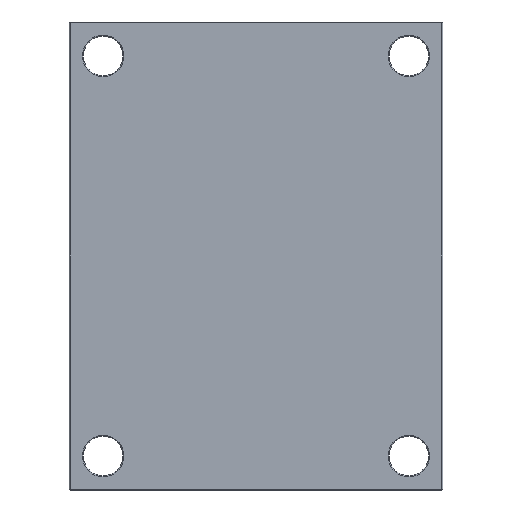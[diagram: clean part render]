
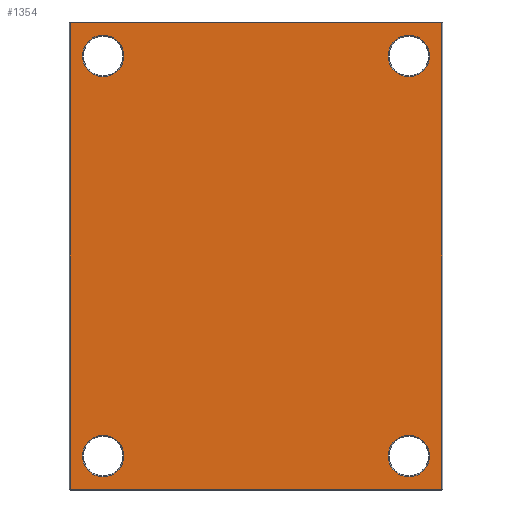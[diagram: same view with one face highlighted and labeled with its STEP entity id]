
A CAD part, front view. The second image highlights one B-rep face of the part: STEP entity #1354.
In plain terms, the highlighted planar face has unit normal (0, -1, 0).
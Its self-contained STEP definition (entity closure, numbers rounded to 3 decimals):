
#5 = DIRECTION ( 'NONE',  ( 0., 1., 0. ) ) ;
#11 = DIRECTION ( 'NONE',  ( 0., 0., 1. ) ) ;
#69 = CARTESIAN_POINT ( 'NONE',  ( -162., 0., 212. ) ) ;
#106 = CARTESIAN_POINT ( 'NONE',  ( 0., 0., 0. ) ) ;
#113 = CIRCLE ( 'NONE', #337, 22. ) ;
#130 = AXIS2_PLACEMENT_3D ( 'NONE', #69, #1855, #1732 ) ;
#134 = DIRECTION ( 'NONE',  ( 0., 0., 1. ) ) ;
#159 = DIRECTION ( 'NONE',  ( -1., 0., 0. ) ) ;
#161 = EDGE_CURVE ( 'NONE', #530, #607, #113, .T. ) ;
#175 = CARTESIAN_POINT ( 'NONE',  ( -162., 0., -212. ) ) ;
#181 = DIRECTION ( 'NONE',  ( 0., 1., 0. ) ) ;
#211 = VERTEX_POINT ( 'NONE', #1752 ) ;
#218 = DIRECTION ( 'NONE',  ( 0., 0., 1. ) ) ;
#224 = AXIS2_PLACEMENT_3D ( 'NONE', #1913, #1084, #1761 ) ;
#240 = CARTESIAN_POINT ( 'NONE',  ( -162., 0., 234. ) ) ;
#246 = CARTESIAN_POINT ( 'NONE',  ( -197., 0., 0. ) ) ;
#277 = VERTEX_POINT ( 'NONE', #1814 ) ;
#304 = AXIS2_PLACEMENT_3D ( 'NONE', #1525, #1196, #134 ) ;
#337 = AXIS2_PLACEMENT_3D ( 'NONE', #1722, #1724, #1736 ) ;
#382 = AXIS2_PLACEMENT_3D ( 'NONE', #175, #181, #218 ) ;
#398 = CIRCLE ( 'NONE', #1773, 22. ) ;
#407 = VERTEX_POINT ( 'NONE', #855 ) ;
#427 = VERTEX_POINT ( 'NONE', #625 ) ;
#476 = DIRECTION ( 'NONE',  ( 0., 0., 1. ) ) ;
#483 = VERTEX_POINT ( 'NONE', #696 ) ;
#505 = DIRECTION ( 'NONE',  ( 0., 1., 0. ) ) ;
#515 = CARTESIAN_POINT ( 'NONE',  ( 0., 0., 247. ) ) ;
#530 = VERTEX_POINT ( 'NONE', #1303 ) ;
#535 = EDGE_LOOP ( 'NONE', ( #806, #840 ) ) ;
#537 = EDGE_LOOP ( 'NONE', ( #895, #925, #923, #927 ) ) ;
#607 = VERTEX_POINT ( 'NONE', #240 ) ;
#618 = VERTEX_POINT ( 'NONE', #1482 ) ;
#625 = CARTESIAN_POINT ( 'NONE',  ( -197., 0., 247. ) ) ;
#670 = PLANE ( 'NONE',  #1022 ) ;
#696 = CARTESIAN_POINT ( 'NONE',  ( 162., 0., 190. ) ) ;
#752 = EDGE_LOOP ( 'NONE', ( #888, #880 ) ) ;
#782 = VECTOR ( 'NONE', #993, 1000. ) ;
#806 = ORIENTED_EDGE ( 'NONE', *, *, #2105, .T. ) ;
#811 = CARTESIAN_POINT ( 'NONE',  ( -162., 0., -234. ) ) ;
#818 = CIRCLE ( 'NONE', #1970, 22. ) ;
#830 = LINE ( 'NONE', #2023, #782 ) ;
#840 = ORIENTED_EDGE ( 'NONE', *, *, #1841, .T. ) ;
#855 = CARTESIAN_POINT ( 'NONE',  ( 162., 0., -234. ) ) ;
#866 = ORIENTED_EDGE ( 'NONE', *, *, #1707, .T. ) ;
#880 = ORIENTED_EDGE ( 'NONE', *, *, #1831, .T. ) ;
#888 = ORIENTED_EDGE ( 'NONE', *, *, #1192, .T. ) ;
#891 = ORIENTED_EDGE ( 'NONE', *, *, #1225, .T. ) ;
#894 = ORIENTED_EDGE ( 'NONE', *, *, #161, .T. ) ;
#895 = ORIENTED_EDGE ( 'NONE', *, *, #1621, .T. ) ;
#911 = VERTEX_POINT ( 'NONE', #811 ) ;
#914 = ORIENTED_EDGE ( 'NONE', *, *, #1635, .T. ) ;
#923 = ORIENTED_EDGE ( 'NONE', *, *, #1524, .T. ) ;
#925 = ORIENTED_EDGE ( 'NONE', *, *, #1582, .T. ) ;
#927 = ORIENTED_EDGE ( 'NONE', *, *, #1459, .T. ) ;
#933 = CIRCLE ( 'NONE', #382, 22. ) ;
#939 = DIRECTION ( 'NONE',  ( 0., 1., 0. ) ) ;
#946 = CARTESIAN_POINT ( 'NONE',  ( 162., 0., 212. ) ) ;
#960 = CIRCLE ( 'NONE', #304, 22. ) ;
#977 = EDGE_LOOP ( 'NONE', ( #891, #866 ) ) ;
#993 = DIRECTION ( 'NONE',  ( 1., 0., 0. ) ) ;
#1022 = AXIS2_PLACEMENT_3D ( 'NONE', #106, #505, #476 ) ;
#1025 = CARTESIAN_POINT ( 'NONE',  ( 197., 0., -247. ) ) ;
#1064 = VERTEX_POINT ( 'NONE', #1286 ) ;
#1084 = DIRECTION ( 'NONE',  ( 0., 1., 0. ) ) ;
#1124 = CARTESIAN_POINT ( 'NONE',  ( -162., 0., -212. ) ) ;
#1192 = EDGE_CURVE ( 'NONE', #407, #1429, #818, .T. ) ;
#1196 = DIRECTION ( 'NONE',  ( 0., 1., 0. ) ) ;
#1225 = EDGE_CURVE ( 'NONE', #483, #277, #398, .T. ) ;
#1286 = CARTESIAN_POINT ( 'NONE',  ( -162., 0., -190. ) ) ;
#1303 = CARTESIAN_POINT ( 'NONE',  ( -162., 0., 190. ) ) ;
#1313 = CIRCLE ( 'NONE', #224, 22. ) ;
#1354 = ADVANCED_FACE ( 'NONE', ( #1617, #1587, #2002, #1981, #1549 ), #670, .F. ) ;
#1386 = AXIS2_PLACEMENT_3D ( 'NONE', #1124, #5, #11 ) ;
#1429 = VERTEX_POINT ( 'NONE', #1531 ) ;
#1459 = EDGE_CURVE ( 'NONE', #618, #1789, #830, .T. ) ;
#1476 = EDGE_LOOP ( 'NONE', ( #894, #914 ) ) ;
#1482 = CARTESIAN_POINT ( 'NONE',  ( -197., 0., -247. ) ) ;
#1489 = CIRCLE ( 'NONE', #130, 22. ) ;
#1513 = VECTOR ( 'NONE', #1812, 1000. ) ;
#1524 = EDGE_CURVE ( 'NONE', #427, #618, #1796, .T. ) ;
#1525 = CARTESIAN_POINT ( 'NONE',  ( 162., 0., -212. ) ) ;
#1531 = CARTESIAN_POINT ( 'NONE',  ( 162., 0., -190. ) ) ;
#1549 = FACE_OUTER_BOUND ( 'NONE', #537, .T. ) ;
#1582 = EDGE_CURVE ( 'NONE', #211, #427, #1714, .T. ) ;
#1587 = FACE_BOUND ( 'NONE', #752, .T. ) ;
#1617 = FACE_BOUND ( 'NONE', #535, .T. ) ;
#1621 = EDGE_CURVE ( 'NONE', #1789, #211, #1666, .T. ) ;
#1622 = VECTOR ( 'NONE', #159, 1000. ) ;
#1635 = EDGE_CURVE ( 'NONE', #607, #530, #1489, .T. ) ;
#1666 = LINE ( 'NONE', #1699, #1513 ) ;
#1699 = CARTESIAN_POINT ( 'NONE',  ( 197., 0., 0. ) ) ;
#1707 = EDGE_CURVE ( 'NONE', #277, #483, #1313, .T. ) ;
#1714 = LINE ( 'NONE', #515, #1622 ) ;
#1722 = CARTESIAN_POINT ( 'NONE',  ( -162., 0., 212. ) ) ;
#1724 = DIRECTION ( 'NONE',  ( 0., 1., 0. ) ) ;
#1732 = DIRECTION ( 'NONE',  ( 0., 0., 1. ) ) ;
#1736 = DIRECTION ( 'NONE',  ( 0., 0., 1. ) ) ;
#1752 = CARTESIAN_POINT ( 'NONE',  ( 197., 0., 247. ) ) ;
#1761 = DIRECTION ( 'NONE',  ( 0., 0., 1. ) ) ;
#1773 = AXIS2_PLACEMENT_3D ( 'NONE', #946, #939, #2137 ) ;
#1776 = VECTOR ( 'NONE', #2031, 1000. ) ;
#1789 = VERTEX_POINT ( 'NONE', #1025 ) ;
#1796 = LINE ( 'NONE', #246, #1776 ) ;
#1812 = DIRECTION ( 'NONE',  ( 0., 0., 1. ) ) ;
#1814 = CARTESIAN_POINT ( 'NONE',  ( 162., 0., 234. ) ) ;
#1831 = EDGE_CURVE ( 'NONE', #1429, #407, #960, .T. ) ;
#1841 = EDGE_CURVE ( 'NONE', #1064, #911, #933, .T. ) ;
#1855 = DIRECTION ( 'NONE',  ( 0., 1., 0. ) ) ;
#1893 = DIRECTION ( 'NONE',  ( 0., 0., 1. ) ) ;
#1900 = DIRECTION ( 'NONE',  ( 0., 1., 0. ) ) ;
#1909 = CARTESIAN_POINT ( 'NONE',  ( 162., 0., -212. ) ) ;
#1913 = CARTESIAN_POINT ( 'NONE',  ( 162., 0., 212. ) ) ;
#1970 = AXIS2_PLACEMENT_3D ( 'NONE', #1909, #1900, #1893 ) ;
#1981 = FACE_BOUND ( 'NONE', #1476, .T. ) ;
#2002 = FACE_BOUND ( 'NONE', #977, .T. ) ;
#2023 = CARTESIAN_POINT ( 'NONE',  ( 0., 0., -247. ) ) ;
#2031 = DIRECTION ( 'NONE',  ( 0., 0., -1. ) ) ;
#2041 = CIRCLE ( 'NONE', #1386, 22. ) ;
#2105 = EDGE_CURVE ( 'NONE', #911, #1064, #2041, .T. ) ;
#2137 = DIRECTION ( 'NONE',  ( 0., 0., 1. ) ) ;
